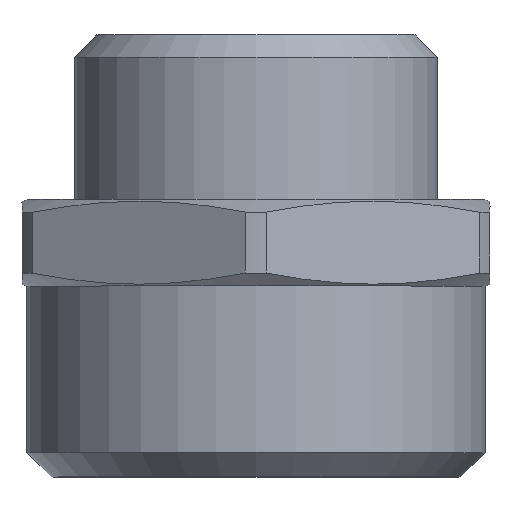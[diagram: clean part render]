
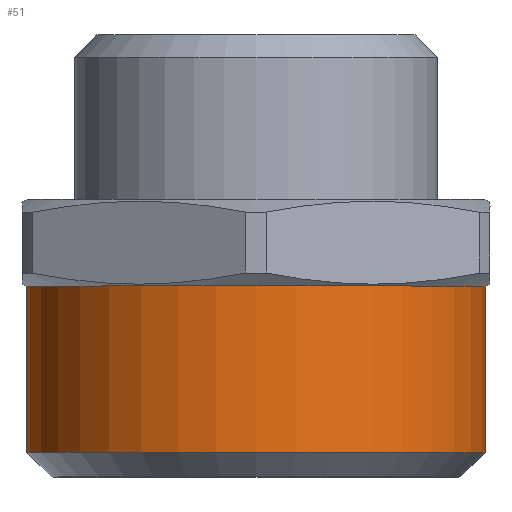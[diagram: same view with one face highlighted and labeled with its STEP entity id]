
A CAD part, top view. The second image highlights one B-rep face of the part: STEP entity #51.
In plain terms, the highlighted cylindrical face has radius 13.22 mm (diameter 26.441 mm), a full revolution.
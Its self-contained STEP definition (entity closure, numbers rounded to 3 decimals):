
#51=ADVANCED_FACE('',(#134,#136),#138,.T.);
#134=FACE_OUTER_BOUND('',#135,.T.);
#135=EDGE_LOOP('',(#304));
#136=FACE_OUTER_BOUND('',#137,.T.);
#137=EDGE_LOOP('',(#305));
#138=CYLINDRICAL_SURFACE('',#139,13.221);
#139=AXIS2_PLACEMENT_3D('',#140,#141,#142);
#140=CARTESIAN_POINT('',(0.,-2.5,0.));
#141=DIRECTION('',(0.,-1.,0.));
#142=DIRECTION('',(1.,0.,0.));
#304=ORIENTED_EDGE('',*,*,#405,.T.);
#305=ORIENTED_EDGE('',*,*,#403,.F.);
#403=EDGE_CURVE('',#464,#464,#465,.T.);
#405=EDGE_CURVE('',#468,#468,#469,.T.);
#464=VERTEX_POINT('',#583);
#465=CIRCLE('',#584,13.221);
#468=VERTEX_POINT('',#593);
#469=CIRCLE('',#594,13.221);
#583=CARTESIAN_POINT('',(13.221,-12.1,0.));
#584=AXIS2_PLACEMENT_3D('',#585,#586,#587);
#585=CARTESIAN_POINT('',(0.,-12.1,0.));
#586=DIRECTION('',(0.,-1.,0.));
#587=DIRECTION('',(1.,0.,0.));
#593=CARTESIAN_POINT('',(13.221,-2.5,0.));
#594=AXIS2_PLACEMENT_3D('',#595,#596,#597);
#595=CARTESIAN_POINT('',(0.,-2.5,0.));
#596=DIRECTION('',(0.,-1.,0.));
#597=DIRECTION('',(1.,0.,0.));
